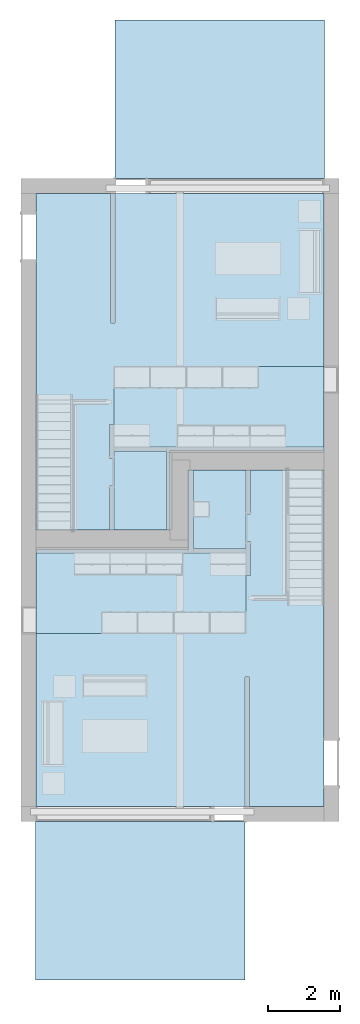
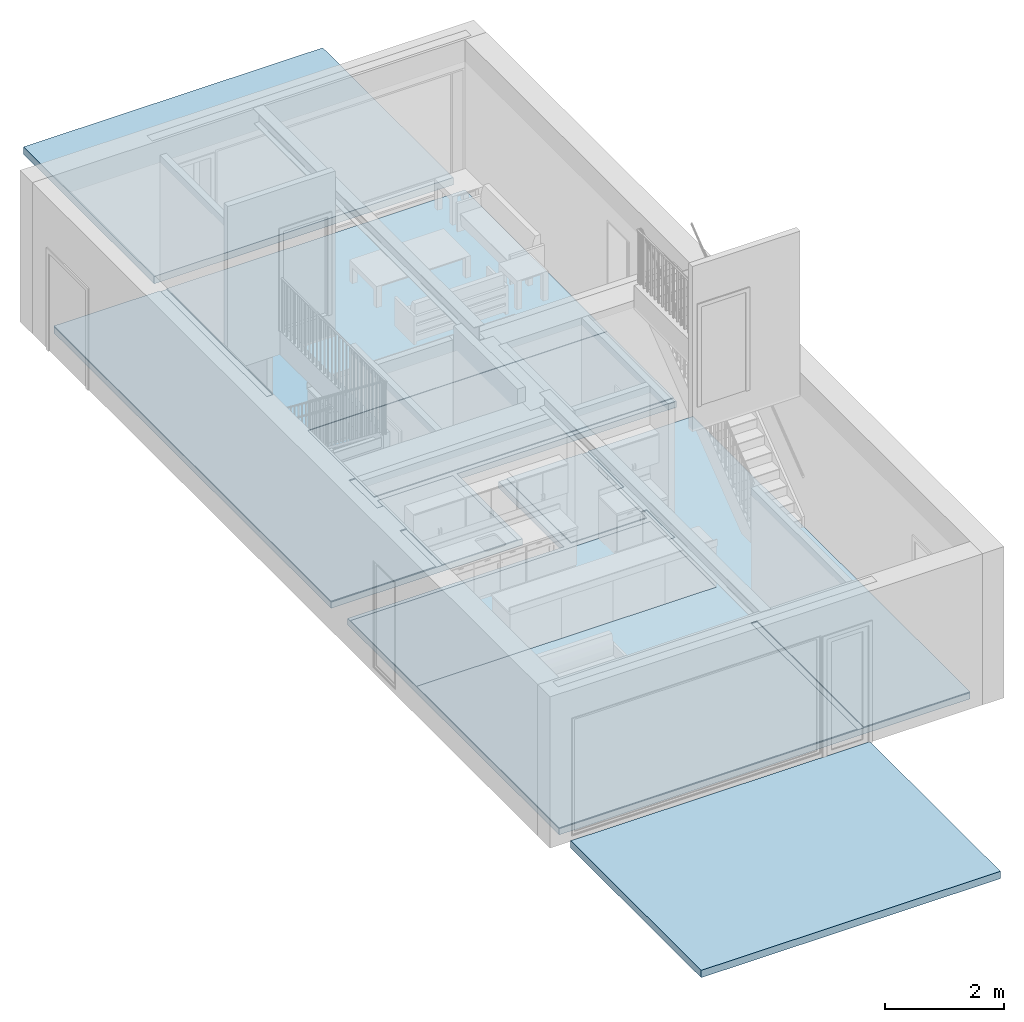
# One storey, part 1 of 14: 10 slabs.
"""IFC4 building model written with IfcOpenShell, lengths in metres."""

from ifc_helpers import new_model, entity, si_unit, converted_unit, frame, frame_2d, origin, origin_2d_with_axis, place, context, project, spatial, polyline, rectangle, outline, extrude, element, save


model = new_model("IFC4")

# Units and contexts
model_context = context("Model", 3, precision=1e-09, world=origin())
plan_context = context("Plan", 3, precision=1e-09, world=origin())
ifc_project = project(units=[si_unit("LENGTHUNIT", "METRE"), si_unit("AREAUNIT", "SQUARE_METRE"), si_unit("VOLUMEUNIT", "CUBIC_METRE"), converted_unit("PLANEANGLEUNIT", "DEGREE", entity("IfcRatioMeasure", 0.01745329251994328), si_unit("PLANEANGLEUNIT", "RADIAN"), dimensions=[0, 0, 0, 0, 0, 0, 0]), si_unit("TIMEUNIT", "SECOND")], contexts=[model_context, plan_context])

# Site, building, storey
site_placement = place(None, origin())
site = spatial("IfcSite", under=ifc_project, at=site_placement, Name="Default", CompositionType="ELEMENT")
building_placement = place(site_placement, origin())
building = spatial("IfcBuilding", under=site, at=building_placement, CompositionType="ELEMENT")
storey_placement = place(building_placement, origin())
storey = spatial("IfcBuildingStorey", under=building, at=storey_placement, Name="Level 1", CompositionType="ELEMENT", Elevation=0.0)

# Slabs
slab_1_placement = place(storey_placement, frame((0.4169999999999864, -9.725000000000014, -0.127)))
element("IfcSlab", 1, at=slab_1_placement, inside=storey, Name="Floor:127mm Slab on Grade", ObjectType="Floor:127mm Slab on Grade", PredefinedType="FLOOR", context=model_context, shape_type="SweptSolid", body=[
    extrude(outline(polyline([(-3.983000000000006, 4.653999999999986), (-3.982999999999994, -2.453999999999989), (0.2749999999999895, -2.453999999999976), (0.2749999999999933, -4.654000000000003), (3.983000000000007, -4.65399999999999), (3.982999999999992, 4.654000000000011), (-3.983000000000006, 4.653999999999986)])), frame((3.983000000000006, 4.654000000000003, 0.127), z_axis=(0.0, 0.0, -1.0), x_axis=(-1.0, 0.0, 0.0)), (0.0, 0.0, 1.0), 0.127),
])
slab_2_placement = place(storey_placement, frame((0.4169999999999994, -17.383, -0.127)))
element("IfcSlab", 2, at=slab_2_placement, inside=storey, Name="Floor:127mm Slab on Grade", ObjectType="Floor:127mm Slab on Grade", PredefinedType="FLOOR", context=model_context, shape_type="SweptSolid", body=[
    extrude(outline(polyline([(-3.983000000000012, 4.653999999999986), (-3.982999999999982, -4.65400000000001), (3.98299999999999, -4.653999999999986), (3.98299999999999, 2.453999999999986), (-0.2175000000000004, 2.453999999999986), (-0.2175000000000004, 4.653999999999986), (-3.983000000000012, 4.653999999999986)])), frame((3.98299999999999, 4.65400000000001, 0.127), z_axis=(0.0, 0.0, -1.0), x_axis=(-1.0, 0.0, 0.0)), (0.0, 0.0, 1.0), 0.127),
])
slab_3_placement = place(storey_placement, frame((0.4169999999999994, -17.38300000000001, 0.0)))
element("IfcSlab", 3, at=slab_3_placement, inside=storey, Name="Floor:Finish Floor - Wood", ObjectType="Floor:Finish Floor - Wood", PredefinedType="FLOOR", context=model_context, shape_type="SweptSolid", body=[
    extrude(outline(polyline([(-1.924000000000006, -4.654000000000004), (-1.924000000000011, -1.071000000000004), (-1.800000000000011, -1.071000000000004), (-1.800000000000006, -4.654000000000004), (3.98299999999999, -4.653999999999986), (3.98299999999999, 0.1290000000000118), (-1.826000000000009, 0.1289999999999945), (-1.826000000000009, 1.733999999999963), (-1.950000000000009, 1.733999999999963), (-1.95000000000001, 2.675999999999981), (-1.826000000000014, 2.675999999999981), (-1.826000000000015, 3.43799999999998), (-1.950000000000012, 3.43799999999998), (-1.950000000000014, 4.654000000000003), (-3.982999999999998, 4.653999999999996), (-3.982999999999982, -4.65400000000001), (-1.924000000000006, -4.654000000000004)])), frame((3.98299999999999, 4.65400000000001, 0.019), z_axis=(0.0, 0.0, -1.0), x_axis=(-1.0, 0.0, 0.0)), (0.0, 0.0, 1.0), 0.019),
])
slab_4_placement = place(storey_placement, frame((0.4169999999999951, -12.59999999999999, 0.0)))
element("IfcSlab", 4, at=slab_4_placement, inside=storey, Name="Floor:Finish Floor - Ceramic Tile", ObjectType="Floor:Finish Floor - Ceramic Tile", PredefinedType="FLOOR", context=model_context, shape_type="SweptSolid", body=[
    extrude(rectangle(XDim=5.809000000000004, YDim=2.229999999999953, at=frame_2d((0.0, 0.0), x_axis=(-1.0, 0.0))), frame((2.904500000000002, 1.114999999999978, 0.013), z_axis=(0.0, 0.0, -1.0), x_axis=(-1.0, 0.0, 0.0)), (0.0, 0.0, 1.0), 0.013),
])
slab_5_placement = place(storey_placement, frame((4.770000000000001, -10.24600000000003, 0.0)))
element("IfcSlab", 5, at=slab_5_placement, inside=storey, Name="Floor:Finish Floor - Ceramic Tile", ObjectType="Floor:Finish Floor - Ceramic Tile", PredefinedType="FLOOR", context=model_context, shape_type="SweptSolid", body=[
    extrude(rectangle(XDim=1.456000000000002, YDim=2.171000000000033, at=frame_2d((0.0, 0.0), x_axis=(-1.0, 0.0))), frame((0.7280000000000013, 1.085500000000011, 0.013), z_axis=(0.0, 0.0, -1.0), x_axis=(-1.0, 0.0, 0.0)), (0.0, 0.0, 1.0), 0.013),
])
slab_6_placement = place(storey_placement, frame((2.573999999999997, -9.725000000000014, 0.0)))
element("IfcSlab", 6, at=slab_6_placement, inside=storey, Name="Floor:Finish Floor - Ceramic Tile", ObjectType="Floor:Finish Floor - Ceramic Tile", PredefinedType="FLOOR", context=model_context, shape_type="SweptSolid", body=[
    extrude(rectangle(XDim=2.171000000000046, YDim=1.456000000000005, at=frame_2d((0.0, 0.0), x_axis=(0.0, -1.0))), frame((0.7280000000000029, 1.085500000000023, 0.013), z_axis=(0.0, 0.0, -1.0), x_axis=(-1.0, 0.0, 0.0)), (0.0, 0.0, 1.0), 0.013),
])
slab_7_placement = place(storey_placement, frame((0.4169999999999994, -9.725000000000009, 0.0)))
element("IfcSlab", 7, at=slab_7_placement, inside=storey, Name="Floor:Finish Floor - Wood", ObjectType="Floor:Finish Floor - Wood", PredefinedType="FLOOR", context=model_context, shape_type="SweptSolid", body=[
    extrude(outline(polyline([(1.923999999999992, 4.654000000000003), (1.923999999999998, 1.071000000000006), (1.799999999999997, 1.071000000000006), (1.799999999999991, 4.654000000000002), (-3.983000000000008, 4.653999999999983), (-3.983, -0.1290000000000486), (1.825999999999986, -0.1289999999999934), (1.82599999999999, -1.733999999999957), (1.94999999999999, -1.733999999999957), (1.949999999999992, -2.677999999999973), (1.825999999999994, -2.677999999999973), (1.825999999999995, -3.441691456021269), (1.949999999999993, -3.441691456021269), (1.949999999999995, -4.653999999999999), (3.982999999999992, -4.653999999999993), (3.982999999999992, 4.65400000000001), (1.923999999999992, 4.654000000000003)])), frame((3.982999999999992, 4.653999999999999, 0.019), z_axis=(0.0, 0.0, -1.0), x_axis=(-1.0, 0.0, 0.0)), (0.0, 0.0, 1.0), 0.019),
])
slab_8_placement = place(storey_placement, frame((2.574000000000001, -7.429999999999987, 0.0)))
element("IfcSlab", 8, at=slab_8_placement, inside=storey, Name="Floor:Finish Floor - Ceramic Tile", ObjectType="Floor:Finish Floor - Ceramic Tile", PredefinedType="FLOOR", context=model_context, shape_type="SweptSolid", body=[
    extrude(rectangle(XDim=5.808999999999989, YDim=2.229999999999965, at=frame_2d((0.0, 0.0), x_axis=(-1.0, 0.0))), frame((2.904499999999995, 1.114999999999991, 0.013), z_axis=(0.0, 0.0, -1.0), x_axis=(-1.0, 0.0, 0.0)), (0.0, 0.0, 1.0), 0.013),
])
slab_9_placement = place(storey_placement, frame((2.6, 0.0, -0.137)))
element("IfcSlab", 9, at=slab_9_placement, inside=storey, Name="Floor:150mm Exterior Slab on Grade", ObjectType="Floor:150mm Exterior Slab on Grade", PredefinedType="FLOOR", context=model_context, shape_type="SweptSolid", body=[
    extrude(rectangle(XDim=5.799999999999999, YDim=4.382734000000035, at=frame_2d((0.0, 0.0), x_axis=(-1.0, 0.0))), frame((2.899999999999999, 2.191367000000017, 0.15), z_axis=(0.0, 0.0, -1.0), x_axis=(-1.0, 0.0, 0.0)), (0.0, 0.0, 1.0), 0.15),
])
slab_10_placement = place(storey_placement, frame((0.4, -22.18273399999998, -0.137)))
element("IfcSlab", 10, at=slab_10_placement, inside=storey, Name="Floor:150mm Exterior Slab on Grade", ObjectType="Floor:150mm Exterior Slab on Grade", PredefinedType="FLOOR", context=model_context, shape_type="SweptSolid", body=[
    extrude(rectangle(XDim=5.799999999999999, YDim=4.382734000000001, at=origin_2d_with_axis()), frame((2.9, 2.191366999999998, 0.15), z_axis=(0.0, 0.0, -1.0), x_axis=(-1.0, 0.0, 0.0)), (0.0, 0.0, 1.0), 0.15),
])

save(model, "model.ifc")
